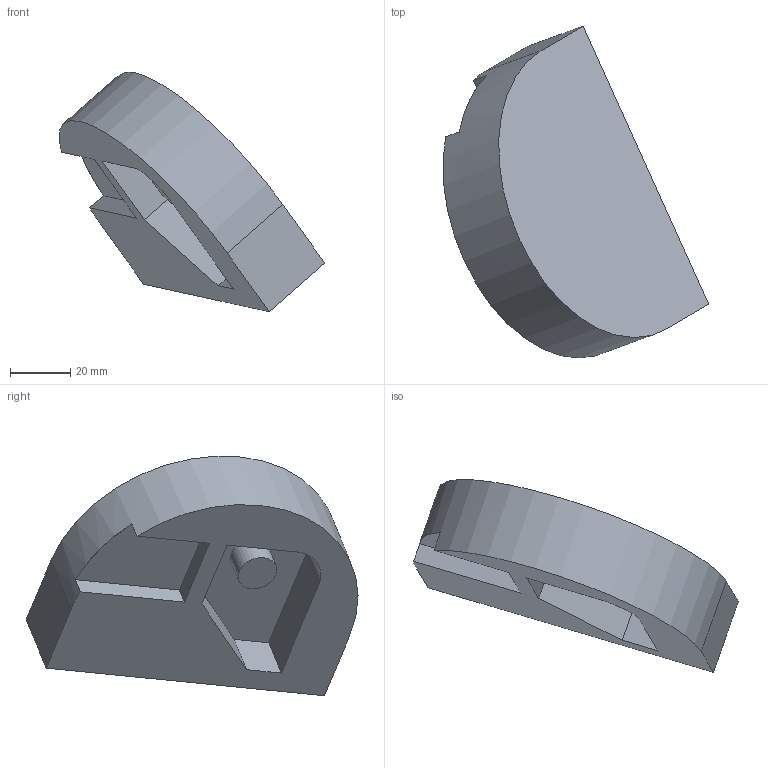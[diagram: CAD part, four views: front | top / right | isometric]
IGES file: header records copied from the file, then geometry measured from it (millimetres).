
Start section: START RECORD GO HERE.
Global section: file name: C:\Documents and Settings\Administrator\Desktop\Temporary Directory\Lesson 5 Exercise 5.igs; native system: IBM CATIA IGES - CATIA Version 5 Release 9 ; preprocessor: CATIA Version 5 Release 9 ; organization: DASSAULT SYSTEMES; date: 20021127.152604; units: inch
Bounding box: 88.15 x 110.09 x 79.42 mm (x, y, z)
Surface area: 24483.2 mm2 (no closed solid volume)
Topology: 0 solids, 0 shells, 20 faces, 96 edges, 96 vertices
Faces by surface type: plane 16, revolution 4
